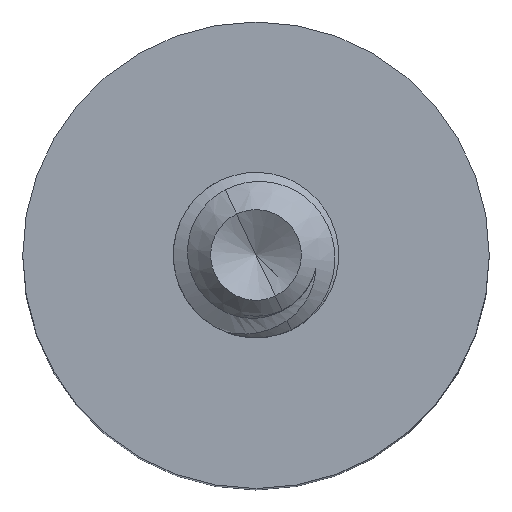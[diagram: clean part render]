
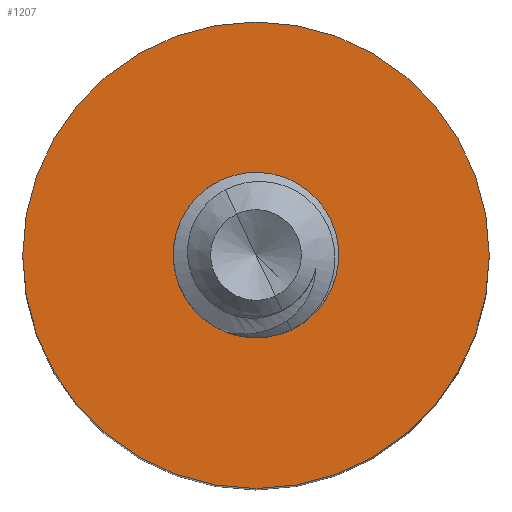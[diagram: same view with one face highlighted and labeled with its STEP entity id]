
A CAD part, top view. The second image highlights one B-rep face of the part: STEP entity #1207.
In plain terms, the highlighted planar face has unit normal (0, 0, 1).
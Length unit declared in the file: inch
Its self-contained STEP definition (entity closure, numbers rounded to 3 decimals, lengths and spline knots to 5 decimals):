
#32 = DIRECTION ( 'NONE',  ( 1., 0., 0. ) ) ;
#110 = ORIENTED_EDGE ( 'NONE', *, *, #3379, .F. ) ;
#193 = VERTEX_POINT ( 'NONE', #2826 ) ;
#249 = DIRECTION ( 'NONE',  ( 0., 0., -1. ) ) ;
#255 = DIRECTION ( 'NONE',  ( 0., 0., 1. ) ) ;
#266 = AXIS2_PLACEMENT_3D ( 'NONE', #2030, #4482, #2381 ) ;
#449 = AXIS2_PLACEMENT_3D ( 'NONE', #2379, #255, #2719 ) ;
#551 = EDGE_LOOP ( 'NONE', ( #2485, #3470 ) ) ;
#661 = ORIENTED_EDGE ( 'NONE', *, *, #1460, .F. ) ;
#808 = AXIS2_PLACEMENT_3D ( 'NONE', #4122, #249, #2715 ) ;
#884 = CARTESIAN_POINT ( 'NONE',  ( 0.3525, 0., 0. ) ) ;
#966 = CARTESIAN_POINT ( 'NONE',  ( 0., 0., 0. ) ) ;
#1207 = ADVANCED_FACE ( 'NONE', ( #2739, #1819 ), #3409, .F. ) ;
#1318 = DIRECTION ( 'NONE',  ( 1., 0., 0. ) ) ;
#1460 = EDGE_CURVE ( 'NONE', #4308, #2704, #4174, .T. ) ;
#1819 = FACE_OUTER_BOUND ( 'NONE', #551, .T. ) ;
#2030 = CARTESIAN_POINT ( 'NONE',  ( 0., 0., 0. ) ) ;
#2152 = DIRECTION ( 'NONE',  ( 0., 0., 1. ) ) ;
#2302 = CIRCLE ( 'NONE', #266, 0.1005 ) ;
#2379 = CARTESIAN_POINT ( 'NONE',  ( 0., 0., 0. ) ) ;
#2381 = DIRECTION ( 'NONE',  ( 1., 0., 0. ) ) ;
#2485 = ORIENTED_EDGE ( 'NONE', *, *, #2693, .T. ) ;
#2572 = EDGE_LOOP ( 'NONE', ( #661, #110 ) ) ;
#2693 = EDGE_CURVE ( 'NONE', #3978, #193, #3289, .T. ) ;
#2704 = VERTEX_POINT ( 'NONE', #4118 ) ;
#2715 = DIRECTION ( 'NONE',  ( -1., 0., 0. ) ) ;
#2719 = DIRECTION ( 'NONE',  ( 1., 0., 0. ) ) ;
#2739 = FACE_BOUND ( 'NONE', #2572, .T. ) ;
#2826 = CARTESIAN_POINT ( 'NONE',  ( -0.3525, 0., 0. ) ) ;
#3104 = CARTESIAN_POINT ( 'NONE',  ( 0.1005, 0., 0. ) ) ;
#3159 = AXIS2_PLACEMENT_3D ( 'NONE', #4253, #2152, #32 ) ;
#3289 = CIRCLE ( 'NONE', #449, 0.3525 ) ;
#3353 = EDGE_CURVE ( 'NONE', #193, #3978, #4061, .T. ) ;
#3379 = EDGE_CURVE ( 'NONE', #2704, #4308, #2302, .T. ) ;
#3409 = PLANE ( 'NONE',  #808 ) ;
#3418 = DIRECTION ( 'NONE',  ( 0., 0., 1. ) ) ;
#3470 = ORIENTED_EDGE ( 'NONE', *, *, #3353, .T. ) ;
#3978 = VERTEX_POINT ( 'NONE', #884 ) ;
#4061 = CIRCLE ( 'NONE', #4142, 0.3525 ) ;
#4118 = CARTESIAN_POINT ( 'NONE',  ( -0.1005, 0., 0. ) ) ;
#4122 = CARTESIAN_POINT ( 'NONE',  ( 0., 0., 0. ) ) ;
#4142 = AXIS2_PLACEMENT_3D ( 'NONE', #966, #3418, #1318 ) ;
#4174 = CIRCLE ( 'NONE', #3159, 0.1005 ) ;
#4253 = CARTESIAN_POINT ( 'NONE',  ( 0., 0., 0. ) ) ;
#4308 = VERTEX_POINT ( 'NONE', #3104 ) ;
#4482 = DIRECTION ( 'NONE',  ( 0., 0., 1. ) ) ;
